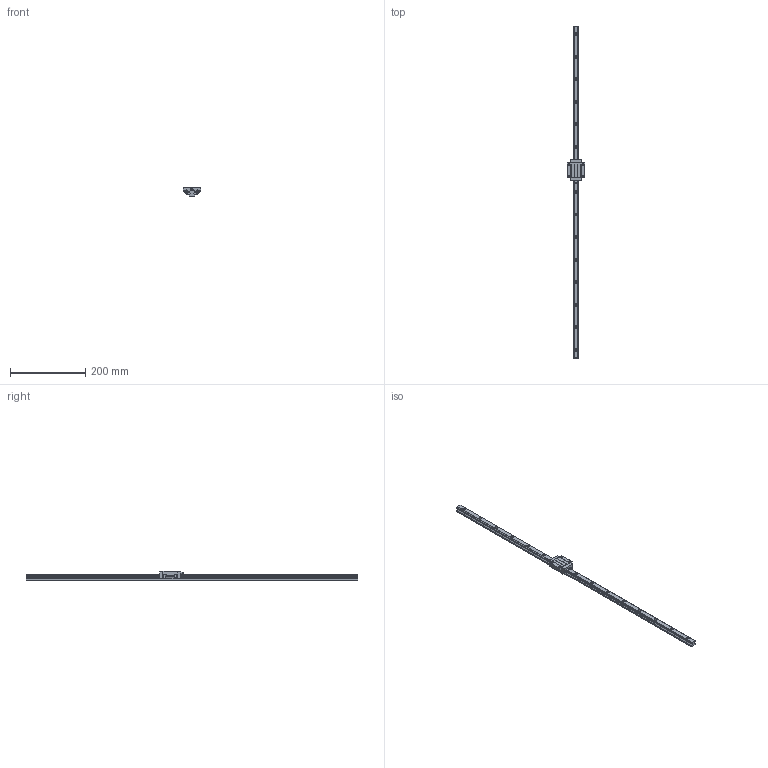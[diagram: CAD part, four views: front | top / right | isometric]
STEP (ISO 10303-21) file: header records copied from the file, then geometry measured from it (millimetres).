
FILE_DESCRIPTION (( 'STEP AP203' ), '1' );
FILE_NAME ('MSA 15E + R883-21.5.STEP', '2012-10-01T18:29:34', ( '' ), ( '' ), 'SwSTEP 2.0', 'SolidWorks 2011', '' );
FILE_SCHEMA (( 'CONFIG_CONTROL_DESIGN' ));
Length unit declared in the file: inch
Products named in the file (3): MSA 15E + R883-21.5; MSA15 Carriage; MSA 15 R883-21.5
Assembly tree (2 placements, depth 2):
  MSA 15E + R883-21.5
    MSA15 Carriage
    MSA 15 R883-21.5
Bounding box: 47 x 883 x 24 mm (x, y, z)
Volume: 193277.9 mm3; surface area: 68475.9 mm2
Topology: 3 solids, 3 shells, 237 faces, 615 edges, 408 vertices
Faces by surface type: plane 120, cylinder 109, cone 6, bspline 2
Entity records: 7872 total; most frequent: CARTESIAN_POINT 1531, DIRECTION 1283, ORIENTED_EDGE 1230, EDGE_CURVE 615, AXIS2_PLACEMENT_3D 460, VERTEX_POINT 408, LINE 363, VECTOR 363
